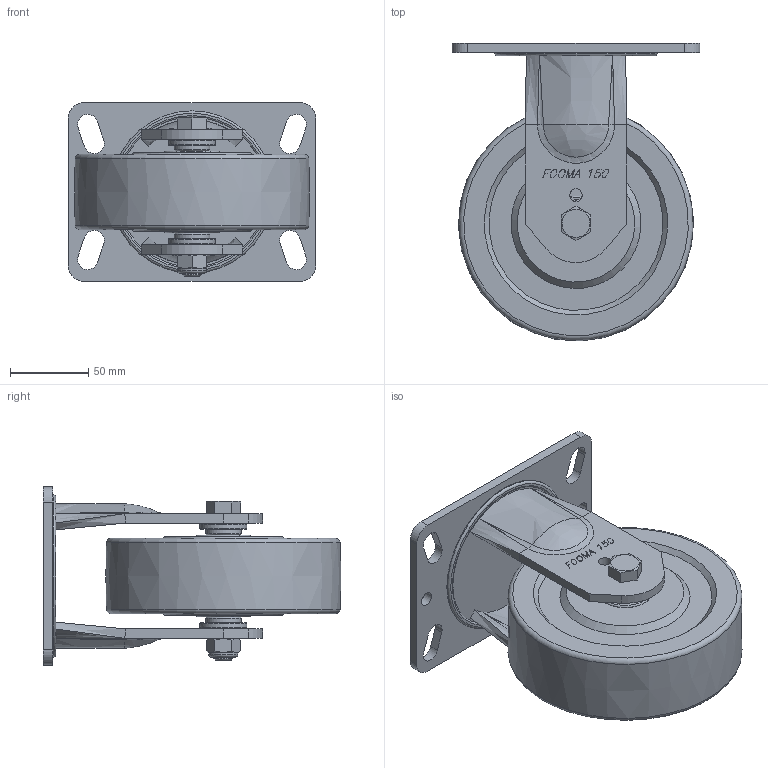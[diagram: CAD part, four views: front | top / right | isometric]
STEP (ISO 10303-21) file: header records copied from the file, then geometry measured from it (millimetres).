
FILE_DESCRIPTION(/* description */ (''),/* implementation_level */ '2;1');
FILE_NAME(/* name */ 'E:\★.DWG\PMH-SERIES\3D\홈페이지용\20180122-STEP\PMH-150-ARF-MCD.stp',/* time_stamp */ '2018-01-22T14:28:44+09:00',/* author */ ('장용하'),/* organization */ (''),/* preprocessor_version */ 'ST-DEVELOPER v16.13',/* originating_system */ 'Autodesk Inventor 2018',/* authorisation */ '');
FILE_SCHEMA (('AUTOMOTIVE_DESIGN { 1 0 10303 214 3 1 1 }'));
Length unit declared in the file: millimetre
Products named in the file (1): PMH-150-ARF-MCD_Shrinkwrap_1
Bounding box: 158 x 189.98 x 114 mm (x, y, z)
Volume: 1035280 mm3; surface area: 136364.8 mm2
Topology: 3 solids, 3 shells, 980 faces, 2705 edges, 1787 vertices
Faces by surface type: plane 882, cylinder 36, bspline 33, cone 15, torus 14
Full cylindrical faces by diameter (mm): 8 x2, 9 x2, 12 x1, 18.5 x1, 21.667 x2, 21.867 x2, 22.9 x2, 28.133 x2, 28.333 x2, 30 x2, 35 x2, 102.5 x1, 103.5 x1
Entity records: 32685 total; most frequent: CARTESIAN_POINT 7030, ORIENTED_EDGE 5286, DIRECTION 4600, EDGE_CURVE 2643, LINE 2440, VECTOR 2440, VERTEX_POINT 1774, EDGE_LOOP 1107
